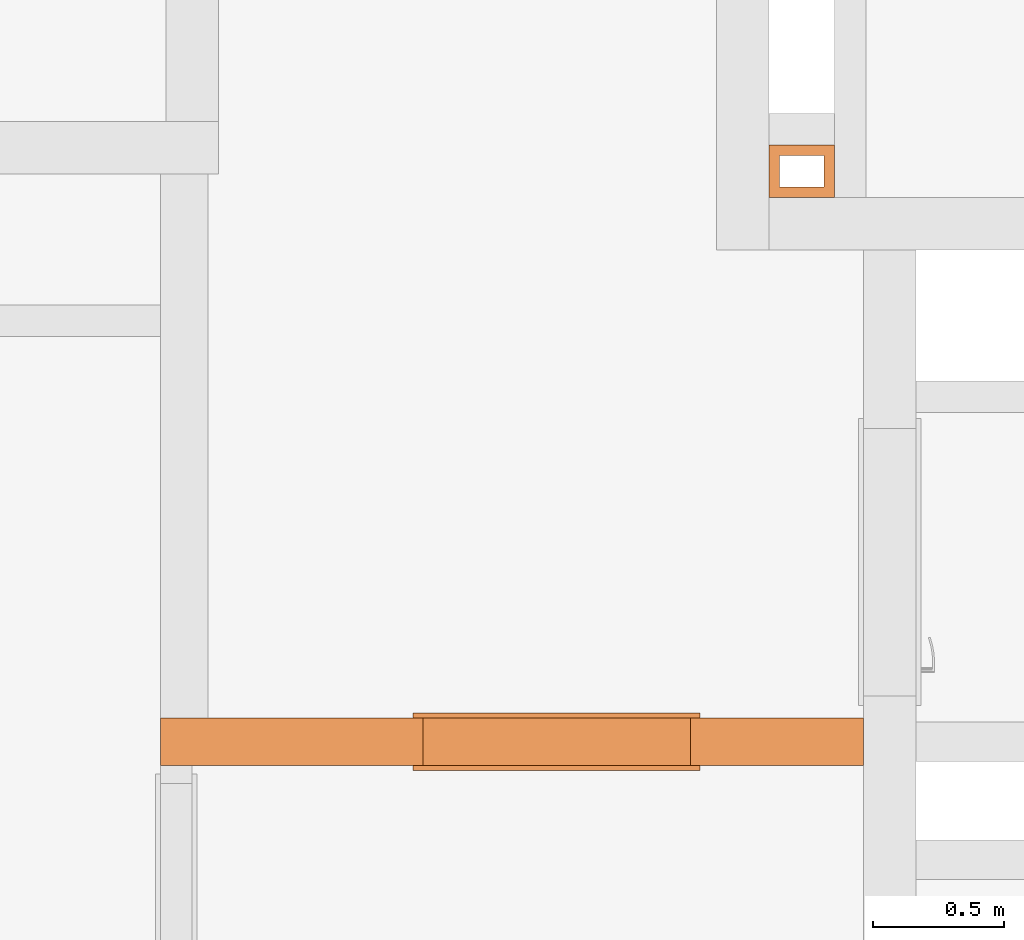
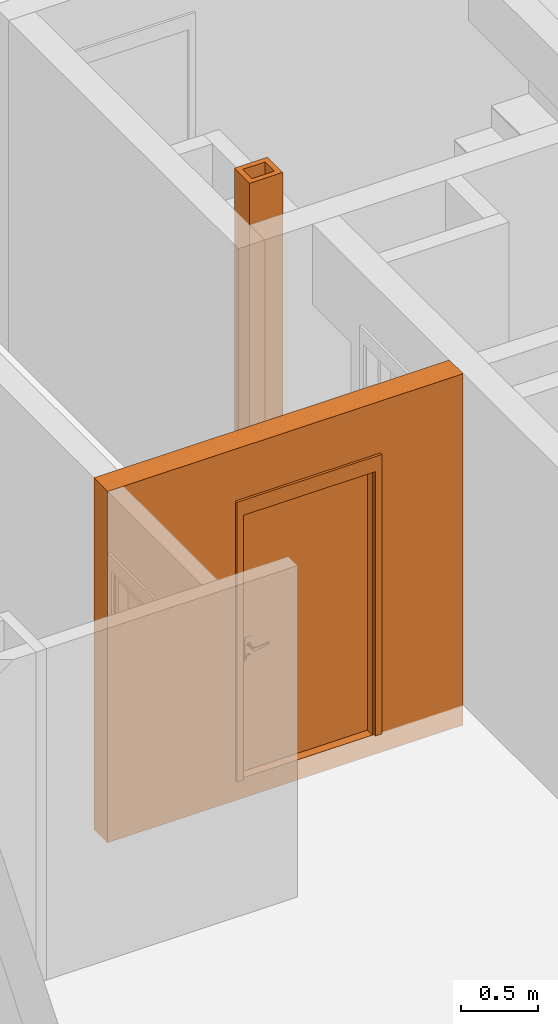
# One storey, part 22 of 61: 3 proxies, 1 opening.
"""IFC2X3 building model written with IfcOpenShell, lengths in millimetres."""

from ifc_helpers import new_model, entity, si_unit, converted_unit, derived_unit, money_unit, direction, frame, origin_with_axes, origin_2d_with_axis, place, context, subcontext, project, spatial, rectangle, extrude, open_shell, faceted_brep, surface_model, source, transform, mapped, material, type_object, element, fill, save


model = new_model("IFC2X3")

# Units and contexts
model_context = context("Model", 3, precision=0.01, world=origin_with_axes(), true_north=direction((0.34421633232, 0.938890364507)))
body_context = subcontext(model_context, "Body", "Model", "MODEL_VIEW")
ifc_project = project(units=[si_unit("LENGTHUNIT", "METRE", prefix="MILLI"), si_unit("AREAUNIT", "SQUARE_METRE"), si_unit("VOLUMEUNIT", "CUBIC_METRE"), converted_unit("PLANEANGLEUNIT", "DEGREE", entity("IfcPlaneAngleMeasure", 0.0174532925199), si_unit("PLANEANGLEUNIT", "RADIAN"), dimensions=[0, 0, 0, 0, 0, 0, 0]), si_unit("SOLIDANGLEUNIT", "STERADIAN"), money_unit("USD"), converted_unit("TIMEUNIT", "Year", entity("IfcTimeMeasure", 31556926.0), si_unit("TIMEUNIT", "SECOND"), dimensions=[0, 0, 1, 0, 0, 0, 0]), si_unit("MASSUNIT", "GRAM", prefix="KILO"), si_unit("THERMODYNAMICTEMPERATUREUNIT", "DEGREE_CELSIUS"), si_unit("LUMINOUSINTENSITYUNIT", "LUMEN"), si_unit("ENERGYUNIT", "JOULE", prefix="MEGA"), derived_unit("THERMALCONDUCTANCEUNIT", [(si_unit("POWERUNIT", "WATT"), 1), (si_unit("LENGTHUNIT", "METRE"), -1), (si_unit("THERMODYNAMICTEMPERATUREUNIT", "KELVIN"), -1)]), derived_unit("SPECIFICHEATCAPACITYUNIT", [(si_unit("ENERGYUNIT", "JOULE"), 1), (si_unit("MASSUNIT", "GRAM", prefix="KILO"), -1), (si_unit("THERMODYNAMICTEMPERATUREUNIT", "KELVIN"), -1)]), derived_unit("MASSDENSITYUNIT", [(si_unit("MASSUNIT", "GRAM", prefix="KILO"), 1), (si_unit("VOLUMEUNIT", "CUBIC_METRE"), -1)])], contexts=[model_context])

# Site, building, storey
site_placement = place(None, origin_with_axes())
site = spatial("IfcSite", under=ifc_project, at=site_placement, Name="USTRONIE MORSKIE", CompositionType="ELEMENT")
building_placement = place(site_placement, origin_with_axes())
building = spatial("IfcBuilding", under=site, at=building_placement, Name="Budynek", CompositionType="ELEMENT")
storey_placement = place(building_placement, frame((0.0, 0.0, 13000.0), z_axis=(0.0, 0.0, 1.0), x_axis=(1.0, 0.0, 0.0)))
storey = spatial("IfcBuildingStorey", under=building, at=storey_placement, Name="PIĘTRO 4", CompositionType="ELEMENT", Elevation=13000.0)

# Proxy
building_element_proxy_type_1 = type_object("IfcBuildingElementProxyType", PredefinedType="NOTDEFINED")
shared_shape_1 = source(origin_with_axes(), body_context, "Body", "Brep", [
    faceted_brep([(0.0, 0.0, 0.0), (200.0, 0.0, 0.0), (200.0, 0.0, 2970.0), (0.0, 0.0, 2970.0), (0.0, 250.0, 0.0), (200.0, 250.0, 0.0), (40.0, 210.0, 0.0), (40.0, 40.0, 0.0), (160.0, 40.0, 0.0), (160.0, 210.0, 0.0), (200.0, 250.0, 2970.0), (0.0, 250.0, 2970.0), (40.0, 210.0, 2970.0), (160.0, 210.0, 2970.0), (160.0, 40.0, 2970.0), (40.0, 40.0, 2970.0)], [[[0, 1, 2, 3]], [[0, 4, 5, 1], [6, 7, 8, 9]], [[1, 5, 10, 2]], [[3, 2, 10, 11], [12, 13, 14, 15]], [[4, 0, 3, 11]], [[5, 4, 11, 10]], [[7, 6, 12, 15]], [[8, 7, 15, 14]], [[9, 8, 14, 13]], [[6, 9, 13, 12]]]),
])
proxy_1_placement = place(storey_placement, frame((389757.920919, 730101.199036, 0.0), z_axis=(0.0, 0.0, 1.0), x_axis=(0.0, -1.0, 0.0)))
element("IfcBuildingElementProxy", 1, at=proxy_1_placement, inside=storey, type_object=building_element_proxy_type_1, Name="Obiekt-007", context=body_context, shape_type="MappedRepresentation", body=[
    mapped(shared_shape_1, transform((0.0, 0.0, 0.0))),
])

# Proxies, opening
ifc_material = material(Name="Bloczki silikatowe")
building_element_proxy_type_2 = type_object("IfcBuildingElementProxyType", Name="Bloczki silikatowe 180", PredefinedType="NOTDEFINED")
proxy_2_placement = place(storey_placement, frame((390217.920919, 727826.199036, -160.0), z_axis=(0.0, 0.0, 1.0), x_axis=(-1.0, 0.0, 0.0)))
proxy_2 = element("IfcBuildingElementProxy", 2, at=proxy_2_placement, inside=storey, type_object=building_element_proxy_type_2, material=ifc_material, Name="SW-02", context=body_context, shape_type="Brep", body=[
    faceted_brep([(2780.0, 90.0, 0.0), (2780.0, -90.0, 0.0), (100.0, -90.0, 0.0), (100.0, 90.0, 0.0), (2780.0, 90.0, 2800.0), (2780.0, -90.0, 2800.0), (100.0, -90.0, 2800.0), (100.0, 90.0, 2800.0)], [[[0, 1, 2, 3]], [[1, 0, 4, 5]], [[1, 5, 6, 2]], [[7, 3, 2, 6]], [[4, 0, 3, 7]], [[5, 4, 7, 6]]]),
])
opening_placement = place(proxy_2_placement, frame((1270.0, 0.0, 160.0), z_axis=(0.0, 0.0, 1.0), x_axis=(1.0, 0.0, 0.0)))
opening = element("IfcOpeningElement", 3, at=opening_placement, cuts=proxy_2, Name="Dw.1", context=body_context, shape_type="SweptSolid", body=[
    extrude(rectangle(XDim=1020.0, YDim=2120.0, at=origin_2d_with_axis()), frame((0.0, 180.0, 1060.0), z_axis=(0.0, 1.0, 0.0), x_axis=(-1.0, 0.0, 0.0)), (0.0, 0.0, -1.0), 540.0),
    extrude(rectangle(XDim=1094.0, YDim=2227.0, at=origin_2d_with_axis()), frame((0.0, 90.0, 1113.5), z_axis=(0.0, 1.0, 0.0), x_axis=(-1.0, 0.0, 0.0)), (0.0, 0.0, 1.0), 180.0),
    extrude(rectangle(XDim=1094.0, YDim=2227.0, at=origin_2d_with_axis()), frame((0.0, -90.0, 1113.5), z_axis=(0.0, -1.0, 0.0), x_axis=(-1.0, 0.0, 0.0)), (0.0, 0.0, 1.0), 180.0),
])
building_element_proxy_type_3 = type_object("IfcBuildingElementProxyType", Name="Drzwi 23", PredefinedType="NOTDEFINED")
shared_shape_2 = source(origin_with_axes(), body_context, "Body", "SurfaceModel", [
    faceted_brep([(510.0, 0.0, 0.0), (485.0, 0.0, 0.0), (485.0, 65.0, 0.0), (510.0, 65.0, 0.0), (510.0, 0.0, 2120.0), (485.0, 0.0, 2095.0), (485.0, 65.0, 2095.0), (510.0, 65.0, 2120.0)], [[[0, 1, 2, 3]], [[0, 4, 5, 1]], [[1, 5, 6, 2]], [[3, 2, 6, 7]], [[4, 0, 3, 7]], [[5, 4, 7, 6]]]),
    faceted_brep([(-510.0, 0.0, 2120.0), (-485.0, 0.0, 2095.0), (-485.0, 65.0, 2095.0), (-510.0, 65.0, 2120.0), (-510.0, 0.0, 0.0), (-485.0, 0.0, 0.0), (-485.0, 65.0, 0.0), (-510.0, 65.0, 0.0)], [[[0, 1, 2, 3]], [[0, 4, 5, 1]], [[1, 5, 6, 2]], [[3, 2, 6, 7]], [[4, 0, 3, 7]], [[5, 4, 7, 6]]]),
    faceted_brep([(485.0, 0.0, 2095.0), (-485.0, 0.0, 2095.0), (-485.0, 65.0, 2095.0), (485.0, 65.0, 2095.0), (510.0, 0.0, 2120.0), (-510.0, 0.0, 2120.0), (-510.0, 65.0, 2120.0), (510.0, 65.0, 2120.0)], [[[0, 1, 2, 3]], [[0, 4, 5, 1]], [[1, 5, 6, 2]], [[3, 2, 6, 7]], [[4, 0, 3, 7]], [[5, 4, 7, 6]]]),
    faceted_brep([(547.0, 84.0, 0.0), (547.0, 65.0, 0.0), (497.0, 65.0, 0.0), (497.0, 84.0, 0.0), (547.0, 84.0, 2227.0), (547.0, 65.0, 2227.0), (497.0, 65.0, 2107.0), (497.0, 84.0, 2107.0)], [[[0, 1, 2, 3]], [[4, 5, 1, 0]], [[1, 5, 6, 2]], [[3, 2, 6, 7]], [[0, 3, 7, 4]], [[7, 6, 5, 4]]]),
    faceted_brep([(-547.0, 84.0, 2227.0), (-547.0, 65.0, 2227.0), (-497.0, 65.0, 2107.0), (-497.0, 84.0, 2107.0), (-547.0, 84.0, 0.0), (-547.0, 65.0, 0.0), (-497.0, 65.0, 0.0), (-497.0, 84.0, 0.0)], [[[0, 1, 2, 3]], [[4, 5, 1, 0]], [[1, 5, 6, 2]], [[3, 2, 6, 7]], [[0, 3, 7, 4]], [[7, 6, 5, 4]]]),
    faceted_brep([(547.0, 84.0, 2227.0), (547.0, 65.0, 2227.0), (497.0, 65.0, 2107.0), (497.0, 84.0, 2107.0), (-547.0, 84.0, 2227.0), (-547.0, 65.0, 2227.0), (-497.0, 65.0, 2107.0), (-497.0, 84.0, 2107.0)], [[[0, 1, 2, 3]], [[4, 5, 1, 0]], [[1, 5, 6, 2]], [[3, 2, 6, 7]], [[0, 3, 7, 4]], [[7, 6, 5, 4]]]),
    faceted_brep([(547.0, -134.0, 0.0), (497.0, -134.0, 0.0), (497.0, -115.0, 0.0), (547.0, -115.0, 0.0), (547.0, -134.0, 2227.0), (497.0, -134.0, 2107.0), (497.0, -115.0, 2107.0), (547.0, -115.0, 2227.0)], [[[0, 1, 2, 3]], [[0, 4, 5, 1]], [[1, 5, 6, 2]], [[3, 2, 6, 7]], [[4, 0, 3, 7]], [[5, 4, 7, 6]]]),
    faceted_brep([(-547.0, -134.0, 2227.0), (-497.0, -134.0, 2107.0), (-497.0, -115.0, 2107.0), (-547.0, -115.0, 2227.0), (-547.0, -134.0, 0.0), (-497.0, -134.0, 0.0), (-497.0, -115.0, 0.0), (-547.0, -115.0, 0.0)], [[[0, 1, 2, 3]], [[0, 4, 5, 1]], [[1, 5, 6, 2]], [[3, 2, 6, 7]], [[4, 0, 3, 7]], [[5, 4, 7, 6]]]),
    faceted_brep([(547.0, -134.0, 2227.0), (497.0, -134.0, 2107.0), (497.0, -115.0, 2107.0), (547.0, -115.0, 2227.0), (-547.0, -134.0, 2227.0), (-497.0, -134.0, 2107.0), (-497.0, -115.0, 2107.0), (-547.0, -115.0, 2227.0)], [[[0, 1, 2, 3]], [[0, 4, 5, 1]], [[1, 5, 6, 2]], [[3, 2, 6, 7]], [[4, 0, 3, 7]], [[5, 4, 7, 6]]]),
    faceted_brep([(450.0, -40.0, 0.0), (450.0, -115.0, 0.0), (450.0, -115.0, 2050.0), (450.0, -40.0, 2050.0), (462.0, -40.0, 0.0), (462.0, 0.0, 0.0), (510.0, 0.0, 0.0), (510.0, -115.0, 0.0), (510.0, -115.0, 2050.0), (462.0, -40.0, 2050.0), (510.0, 0.0, 2050.0), (462.0, 0.0, 2050.0)], [[[0, 1, 2, 3]], [[4, 5, 6, 7, 1, 0]], [[1, 7, 8, 2]], [[9, 3, 2, 8, 10, 11]], [[9, 4, 0, 3]], [[11, 5, 4, 9]], [[11, 10, 6, 5]], [[6, 10, 8, 7]]]),
    faceted_brep([(-462.0, -40.0, 2050.0), (-462.0, 0.0, 2050.0), (-510.0, 0.0, 2050.0), (-510.0, -115.0, 2050.0), (-450.0, -115.0, 2050.0), (-450.0, -40.0, 2050.0), (-462.0, -40.0, 0.0), (-462.0, 0.0, 0.0), (-510.0, 0.0, 0.0), (-510.0, -115.0, 0.0), (-450.0, -115.0, 0.0), (-450.0, -40.0, 0.0)], [[[0, 1, 2, 3, 4, 5]], [[0, 6, 7, 1]], [[7, 8, 2, 1]], [[2, 8, 9, 3]], [[3, 9, 10, 4]], [[5, 4, 10, 11]], [[5, 11, 6, 0]], [[6, 11, 10, 9, 8, 7]]]),
    faceted_brep([(462.0, 0.0, 2062.0), (-462.0, 0.0, 2062.0), (-462.0, 0.0, 2050.0), (-510.0, 0.0, 2050.0), (-510.0, 0.0, 2120.0), (510.0, 0.0, 2120.0), (510.0, 0.0, 2050.0), (462.0, 0.0, 2050.0), (462.0, -40.0, 2062.0), (-462.0, -40.0, 2062.0), (-462.0, -40.0, 2050.0), (-450.0, -40.0, 2050.0), (-450.0, -115.0, 2050.0), (-510.0, -115.0, 2050.0), (-510.0, -115.0, 2120.0), (510.0, -115.0, 2120.0), (510.0, -115.0, 2050.0), (462.0, -40.0, 2050.0), (450.0, -115.0, 2050.0), (450.0, -40.0, 2050.0)], [[[0, 1, 2, 3, 4, 5, 6, 7]], [[0, 8, 9, 1]], [[1, 9, 10, 2]], [[10, 11, 12, 13, 3, 2]], [[4, 3, 13, 14]], [[5, 4, 14, 15]], [[6, 5, 15, 16]], [[17, 7, 6, 16, 18, 19]], [[7, 17, 8, 0]], [[10, 9, 8, 17, 19, 11]], [[19, 18, 12, 11]], [[12, 18, 16, 15, 14, 13]]]),
    faceted_brep([(440.5, -40.0, 1060.0), (383.5, -40.0, 1060.0), (383.5, -43.0, 1060.0), (440.5, -43.0, 1060.0), (440.5, -40.0, 870.0), (383.5, -40.0, 870.0), (383.5, -43.0, 870.0), (440.5, -43.0, 870.0)], [[[0, 1, 2, 3]], [[0, 4, 5, 1]], [[1, 5, 6, 2]], [[3, 2, 6, 7]], [[4, 0, 3, 7]], [[5, 4, 7, 6]]]),
    faceted_brep([(412.0, -104.0, 990.0), (417.0, -104.0, 991.339745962), (417.0, -111.0, 991.339745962), (412.0, -111.0, 990.0), (387.0, -104.0, 990.0), (387.0, -104.0, 1010.0), (412.0, -104.0, 1010.0), (417.0, -104.0, 1008.66025404), (420.660254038, -104.0, 1005.0), (422.0, -104.0, 1000.0), (420.660254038, -104.0, 995.0), (420.660254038, -111.0, 995.0), (422.0, -111.0, 1000.0), (420.660254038, -111.0, 1005.0), (417.0, -111.0, 1008.66025404), (412.0, -111.0, 1010.0), (387.0, -111.0, 1010.0), (387.0, -111.0, 990.0)], [[[0, 1, 2, 3]], [[0, 4, 5, 6, 7, 8, 9, 10, 1]], [[1, 10, 11, 2]], [[3, 2, 11, 12, 13, 14, 15, 16, 17]], [[4, 0, 3, 17]], [[5, 4, 17, 16]], [[6, 5, 16, 15]], [[7, 6, 15, 14]], [[8, 7, 14, 13]], [[9, 8, 13, 12]], [[10, 9, 12, 11]]]),
    surface_model("IfcShellBasedSurfaceModel", [(387.0, -104.0, 1010.0), (373.901717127, -104.0, 1009.60730092), (373.596090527, -111.0, 1009.60730092), (387.0, -104.0, 990.0), (373.901717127, -104.0, 990.392699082), (346.890283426, -108.663544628, 1008.82190275), (387.0, -111.0, 1010.0), (387.0, -111.0, 990.0), (347.804837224, -101.716818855, 991.178097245), (347.804837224, -101.716818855, 1008.82190275), (346.890283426, -108.663544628, 991.178097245), (373.596090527, -111.0, 990.392699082), (322.006256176, -97.1678329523, 991.963495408), (322.006256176, -97.1678329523, 1008.03650459), (320.489735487, -104.008415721, 1008.03650459), (320.489735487, -104.008415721, 991.963495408), (296.702316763, -90.3876628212, 992.748893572), (296.702316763, -90.3876628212, 1007.25110643), (294.59537082, -97.0700416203, 1007.25110643), (294.59537082, -97.0700416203, 992.748893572), (288.829442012, -87.5221707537, 993.0), (288.829442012, -87.5221707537, 1007.0), (286.538795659, -94.1376880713, 1007.0), (286.538795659, -94.1376880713, 993.0)], [open_shell([[[0, 1, 2]], [[0, 3, 4, 1]], [[1, 5, 2]], [[0, 2, 6]], [[4, 3, 7]], [[1, 4, 8, 9]], [[1, 9, 5]], [[2, 5, 10, 11]], [[6, 2, 11, 7]], [[4, 7, 11]], [[8, 4, 11]], [[9, 8, 12, 13]], [[9, 14, 5]], [[5, 14, 15, 10]], [[8, 11, 10]], [[12, 8, 10]], [[13, 12, 16, 17]], [[9, 13, 14]], [[14, 18, 19, 15]], [[12, 10, 15]], [[16, 12, 15]], [[17, 16, 20, 21]], [[13, 17, 18]], [[13, 18, 14]], [[18, 22, 23, 19]], [[16, 15, 19]], [[20, 16, 19]], [[21, 20, 23, 22]], [[17, 21, 22]], [[17, 22, 18]], [[20, 19, 23]]])]),
    faceted_brep([(401.607695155, -53.0, 994.0), (400.0, -53.0, 1000.0), (399.0, -43.0, 1000.0), (400.741669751, -43.0, 993.5), (406.0, -53.0, 989.607695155), (412.0, -53.0, 988.0), (418.0, -53.0, 989.607695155), (422.392304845, -53.0, 994.0), (424.0, -53.0, 1000.0), (422.392304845, -53.0, 1006.0), (418.0, -53.0, 1010.39230485), (412.0, -53.0, 1012.0), (406.0, -53.0, 1010.39230485), (401.607695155, -53.0, 1006.0), (400.741669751, -43.0, 1006.5), (405.5, -43.0, 1011.25833025), (412.0, -43.0, 1013.0), (418.5, -43.0, 1011.25833025), (423.258330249, -43.0, 1006.5), (425.0, -43.0, 1000.0), (423.258330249, -43.0, 993.5), (418.5, -43.0, 988.741669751), (412.0, -43.0, 987.0), (405.5, -43.0, 988.741669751)], [[[0, 1, 2, 3]], [[1, 0, 4, 5, 6, 7, 8, 9, 10, 11, 12, 13]], [[1, 13, 14, 2]], [[2, 14, 15, 16, 17, 18, 19, 20, 21, 22, 23, 3]], [[4, 0, 3, 23]], [[5, 4, 23, 22]], [[6, 5, 22, 21]], [[7, 6, 21, 20]], [[8, 7, 20, 19]], [[9, 8, 19, 18]], [[10, 9, 18, 17]], [[11, 10, 17, 16]], [[12, 11, 16, 15]], [[13, 12, 15, 14]]]),
    faceted_brep([(394.679491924, -47.0, 895.0), (392.0, -47.0, 905.0), (390.0, -43.0, 905.0), (392.947441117, -43.0, 894.0), (402.0, -47.0, 887.679491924), (412.0, -47.0, 885.0), (422.0, -47.0, 887.679491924), (429.320508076, -47.0, 895.0), (432.0, -47.0, 905.0), (429.320508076, -47.0, 915.0), (422.0, -47.0, 922.320508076), (412.0, -47.0, 925.0), (402.0, -47.0, 922.320508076), (394.679491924, -47.0, 915.0), (392.947441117, -43.0, 916.0), (401.0, -43.0, 924.052558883), (412.0, -43.0, 927.0), (423.0, -43.0, 924.052558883), (431.052558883, -43.0, 916.0), (434.0, -43.0, 905.0), (431.052558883, -43.0, 894.0), (423.0, -43.0, 885.947441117), (412.0, -43.0, 883.0), (401.0, -43.0, 885.947441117)], [[[0, 1, 2, 3]], [[1, 0, 4, 5, 6, 7, 8, 9, 10, 11, 12, 13]], [[1, 13, 14, 2]], [[2, 14, 15, 16, 17, 18, 19, 20, 21, 22, 23, 3]], [[4, 0, 3, 23]], [[5, 4, 23, 22]], [[6, 5, 22, 21]], [[7, 6, 21, 20]], [[8, 7, 20, 19]], [[9, 8, 19, 18]], [[10, 9, 18, 17]], [[11, 10, 17, 16]], [[12, 11, 16, 15]], [[13, 12, 15, 14]]]),
    faceted_brep([(407.050252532, -49.0, 909.050252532), (405.0, -49.0, 914.0), (404.0, -47.0, 914.0), (406.343145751, -47.0, 908.343145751), (412.0, -49.0, 907.0), (416.949747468, -49.0, 909.050252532), (419.0, -49.0, 914.0), (416.949747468, -49.0, 918.949747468), (412.0, -49.0, 921.0), (407.050252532, -49.0, 918.949747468), (406.343145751, -47.0, 919.656854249), (412.0, -47.0, 922.0), (417.656854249, -47.0, 919.656854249), (420.0, -47.0, 914.0), (417.656854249, -47.0, 908.343145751), (412.0, -47.0, 906.0)], [[[0, 1, 2, 3]], [[1, 0, 4, 5, 6, 7, 8, 9]], [[1, 9, 10, 2]], [[2, 10, 11, 12, 13, 14, 15, 3]], [[4, 0, 3, 15]], [[5, 4, 15, 14]], [[6, 5, 14, 13]], [[7, 6, 13, 12]], [[8, 7, 12, 11]], [[9, 8, 11, 10]]]),
    faceted_brep([(412.0, -53.0, 1010.0), (407.0, -53.0, 1008.66025404), (407.0, -104.0, 1008.66025404), (412.0, -104.0, 1010.0), (417.0, -53.0, 1008.66025404), (420.660254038, -53.0, 1005.0), (422.0, -53.0, 1000.0), (420.660254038, -53.0, 995.0), (417.0, -53.0, 991.339745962), (412.0, -53.0, 990.0), (407.0, -53.0, 991.339745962), (403.339745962, -53.0, 995.0), (402.0, -53.0, 1000.0), (403.339745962, -53.0, 1005.0), (403.339745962, -104.0, 1005.0), (402.0, -104.0, 1000.0), (403.339745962, -104.0, 995.0), (407.0, -104.0, 991.339745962), (412.0, -104.0, 990.0), (417.0, -104.0, 991.339745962), (420.660254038, -104.0, 995.0), (422.0, -104.0, 1000.0), (420.660254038, -104.0, 1005.0), (417.0, -104.0, 1008.66025404)], [[[0, 1, 2, 3]], [[0, 4, 5, 6, 7, 8, 9, 10, 11, 12, 13, 1]], [[1, 13, 14, 2]], [[3, 2, 14, 15, 16, 17, 18, 19, 20, 21, 22, 23]], [[4, 0, 3, 23]], [[5, 4, 23, 22]], [[6, 5, 22, 21]], [[7, 6, 21, 20]], [[8, 7, 20, 19]], [[9, 8, 19, 18]], [[10, 9, 18, 17]], [[11, 10, 17, 16]], [[12, 11, 16, 15]], [[13, 12, 15, 14]]]),
    faceted_brep([(440.5, 0.0, 1060.0), (440.5, 3.0, 1060.0), (383.5, 3.0, 1060.0), (383.5, 0.0, 1060.0), (440.5, 0.0, 870.0), (440.5, 3.0, 870.0), (383.5, 3.0, 870.0), (383.5, 0.0, 870.0)], [[[0, 1, 2, 3]], [[4, 5, 1, 0]], [[1, 5, 6, 2]], [[3, 2, 6, 7]], [[0, 3, 7, 4]], [[7, 6, 5, 4]]]),
    faceted_brep([(412.0, 64.0, 990.0), (412.0, 71.0, 990.0), (417.0, 71.0, 991.339745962), (417.0, 64.0, 991.339745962), (387.0, 64.0, 990.0), (387.0, 71.0, 990.0), (387.0, 71.0, 1010.0), (412.0, 71.0, 1010.0), (417.0, 71.0, 1008.66025404), (420.660254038, 71.0, 1005.0), (422.0, 71.0, 1000.0), (420.660254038, 71.0, 995.0), (420.660254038, 64.0, 995.0), (422.0, 64.0, 1000.0), (420.660254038, 64.0, 1005.0), (417.0, 64.0, 1008.66025404), (412.0, 64.0, 1010.0), (387.0, 64.0, 1010.0)], [[[0, 1, 2, 3]], [[4, 5, 1, 0]], [[1, 5, 6, 7, 8, 9, 10, 11, 2]], [[3, 2, 11, 12]], [[0, 3, 12, 13, 14, 15, 16, 17, 4]], [[17, 6, 5, 4]], [[16, 7, 6, 17]], [[15, 8, 7, 16]], [[14, 9, 8, 15]], [[13, 10, 9, 14]], [[12, 11, 10, 13]]]),
    surface_model("IfcShellBasedSurfaceModel", [(387.0, 64.0, 1010.0), (373.596090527, 71.0, 1009.60730092), (373.901717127, 64.0, 1009.60730092), (387.0, 71.0, 1010.0), (346.890283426, 68.6635446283, 1008.82190275), (373.901717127, 64.0, 990.392699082), (387.0, 64.0, 990.0), (387.0, 71.0, 990.0), (373.596090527, 71.0, 990.392699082), (346.890283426, 68.6635446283, 991.178097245), (347.804837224, 61.716818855, 1008.82190275), (347.804837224, 61.716818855, 991.178097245), (320.489735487, 64.0084157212, 991.963495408), (320.489735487, 64.0084157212, 1008.03650459), (322.006256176, 57.1678329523, 1008.03650459), (322.006256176, 57.1678329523, 991.963495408), (294.59537082, 57.0700416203, 992.748893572), (294.59537082, 57.0700416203, 1007.25110643), (296.702316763, 50.3876628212, 1007.25110643), (296.702316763, 50.3876628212, 992.748893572), (286.538795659, 54.1376880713, 993.0), (286.538795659, 54.1376880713, 1007.0), (288.829442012, 47.5221707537, 1007.0), (288.829442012, 47.5221707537, 993.0)], [open_shell([[[0, 1, 2]], [[0, 3, 1]], [[2, 1, 4]], [[0, 2, 5, 6]], [[3, 7, 8, 1]], [[1, 8, 9, 4]], [[2, 4, 10]], [[2, 10, 11, 5]], [[5, 7, 6]], [[5, 8, 7]], [[11, 9, 8]], [[4, 9, 12, 13]], [[10, 4, 13]], [[10, 14, 15, 11]], [[11, 8, 5]], [[15, 9, 11]], [[15, 12, 9]], [[13, 12, 16, 17]], [[10, 13, 14]], [[14, 18, 19, 15]], [[19, 12, 15]], [[19, 16, 12]], [[17, 16, 20, 21]], [[14, 13, 17]], [[14, 17, 18]], [[18, 22, 23, 19]], [[23, 16, 19]], [[23, 20, 16]], [[22, 21, 20, 23]], [[18, 17, 21]], [[18, 21, 22]]])]),
    faceted_brep([(401.607695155, 13.0, 994.0), (400.741669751, 3.0, 993.5), (399.0, 3.0, 1000.0), (400.0, 13.0, 1000.0), (406.0, 13.0, 989.607695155), (405.5, 3.0, 988.741669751), (412.0, 3.0, 987.0), (418.5, 3.0, 988.741669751), (423.258330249, 3.0, 993.5), (425.0, 3.0, 1000.0), (423.258330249, 3.0, 1006.5), (418.5, 3.0, 1011.25833025), (412.0, 3.0, 1013.0), (405.5, 3.0, 1011.25833025), (400.741669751, 3.0, 1006.5), (401.607695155, 13.0, 1006.0), (406.0, 13.0, 1010.39230485), (412.0, 13.0, 1012.0), (418.0, 13.0, 1010.39230485), (422.392304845, 13.0, 1006.0), (424.0, 13.0, 1000.0), (422.392304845, 13.0, 994.0), (418.0, 13.0, 989.607695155), (412.0, 13.0, 988.0)], [[[0, 1, 2, 3]], [[4, 5, 1, 0]], [[2, 1, 5, 6, 7, 8, 9, 10, 11, 12, 13, 14]], [[3, 2, 14, 15]], [[3, 15, 16, 17, 18, 19, 20, 21, 22, 23, 4, 0]], [[23, 6, 5, 4]], [[22, 7, 6, 23]], [[21, 8, 7, 22]], [[20, 9, 8, 21]], [[19, 10, 9, 20]], [[18, 11, 10, 19]], [[17, 12, 11, 18]], [[16, 13, 12, 17]], [[15, 14, 13, 16]]]),
    faceted_brep([(394.679491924, 7.0, 895.0), (392.947441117, 3.0, 894.0), (390.0, 3.0, 905.0), (392.0, 7.0, 905.0), (402.0, 7.0, 887.679491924), (401.0, 3.0, 885.947441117), (412.0, 3.0, 883.0), (423.0, 3.0, 885.947441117), (431.052558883, 3.0, 894.0), (434.0, 3.0, 905.0), (431.052558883, 3.0, 916.0), (423.0, 3.0, 924.052558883), (412.0, 3.0, 927.0), (401.0, 3.0, 924.052558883), (392.947441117, 3.0, 916.0), (394.679491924, 7.0, 915.0), (402.0, 7.0, 922.320508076), (412.0, 7.0, 925.0), (422.0, 7.0, 922.320508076), (429.320508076, 7.0, 915.0), (432.0, 7.0, 905.0), (429.320508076, 7.0, 895.0), (422.0, 7.0, 887.679491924), (412.0, 7.0, 885.0)], [[[0, 1, 2, 3]], [[4, 5, 1, 0]], [[2, 1, 5, 6, 7, 8, 9, 10, 11, 12, 13, 14]], [[3, 2, 14, 15]], [[3, 15, 16, 17, 18, 19, 20, 21, 22, 23, 4, 0]], [[23, 6, 5, 4]], [[22, 7, 6, 23]], [[21, 8, 7, 22]], [[20, 9, 8, 21]], [[19, 10, 9, 20]], [[18, 11, 10, 19]], [[17, 12, 11, 18]], [[16, 13, 12, 17]], [[15, 14, 13, 16]]]),
    faceted_brep([(407.050252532, 9.0, 909.050252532), (406.343145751, 7.0, 908.343145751), (404.0, 7.0, 914.0), (405.0, 9.0, 914.0), (412.0, 9.0, 907.0), (412.0, 7.0, 906.0), (417.656854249, 7.0, 908.343145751), (420.0, 7.0, 914.0), (417.656854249, 7.0, 919.656854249), (412.0, 7.0, 922.0), (406.343145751, 7.0, 919.656854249), (407.050252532, 9.0, 918.949747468), (412.0, 9.0, 921.0), (416.949747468, 9.0, 918.949747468), (419.0, 9.0, 914.0), (416.949747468, 9.0, 909.050252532)], [[[0, 1, 2, 3]], [[4, 5, 1, 0]], [[2, 1, 5, 6, 7, 8, 9, 10]], [[3, 2, 10, 11]], [[3, 11, 12, 13, 14, 15, 4, 0]], [[15, 6, 5, 4]], [[14, 7, 6, 15]], [[13, 8, 7, 14]], [[12, 9, 8, 13]], [[11, 10, 9, 12]]]),
    faceted_brep([(412.0, 13.0, 1010.0), (412.0, 64.0, 1010.0), (407.0, 64.0, 1008.66025404), (407.0, 13.0, 1008.66025404), (417.0, 13.0, 1008.66025404), (417.0, 64.0, 1008.66025404), (420.660254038, 64.0, 1005.0), (422.0, 64.0, 1000.0), (420.660254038, 64.0, 995.0), (417.0, 64.0, 991.339745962), (412.0, 64.0, 990.0), (407.0, 64.0, 991.339745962), (403.339745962, 64.0, 995.0), (402.0, 64.0, 1000.0), (403.339745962, 64.0, 1005.0), (403.339745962, 13.0, 1005.0), (402.0, 13.0, 1000.0), (403.339745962, 13.0, 995.0), (407.0, 13.0, 991.339745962), (412.0, 13.0, 990.0), (417.0, 13.0, 991.339745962), (420.660254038, 13.0, 995.0), (422.0, 13.0, 1000.0), (420.660254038, 13.0, 1005.0)], [[[0, 1, 2, 3]], [[4, 5, 1, 0]], [[1, 5, 6, 7, 8, 9, 10, 11, 12, 13, 14, 2]], [[3, 2, 14, 15]], [[0, 3, 15, 16, 17, 18, 19, 20, 21, 22, 23, 4]], [[23, 6, 5, 4]], [[22, 7, 6, 23]], [[21, 8, 7, 22]], [[20, 9, 8, 21]], [[19, 10, 9, 20]], [[18, 11, 10, 19]], [[17, 12, 11, 18]], [[16, 13, 12, 17]], [[15, 14, 13, 16]]]),
    faceted_brep([(-462.0, 0.0, 0.0), (462.0, 0.0, 0.0), (462.0, -40.0, 0.0), (-462.0, -40.0, 0.0), (-462.0, 0.0, 2062.0), (462.0, 0.0, 2062.0), (462.0, -40.0, 2062.0), (-462.0, -40.0, 2062.0)], [[[0, 1, 2, 3]], [[0, 4, 5, 1]], [[1, 5, 6, 2]], [[3, 2, 6, 7]], [[4, 0, 3, 7]], [[5, 4, 7, 6]]]),
])
proxy_3_placement = place(opening_placement, frame((-450.0, 0.0, 0.0), z_axis=(0.0, 0.0, 1.0), x_axis=(1.0, 0.0, 0.0)))
proxy_3 = element("IfcBuildingElementProxy", 4, at=proxy_3_placement, inside=storey, type_object=building_element_proxy_type_3, Name="Dw.1", context=body_context, shape_type="MappedRepresentation", body=[
    mapped(shared_shape_2, transform((450.0, 25.0, 0.0))),
])
fill(opening, proxy_3)

save(model, "model.ifc")
